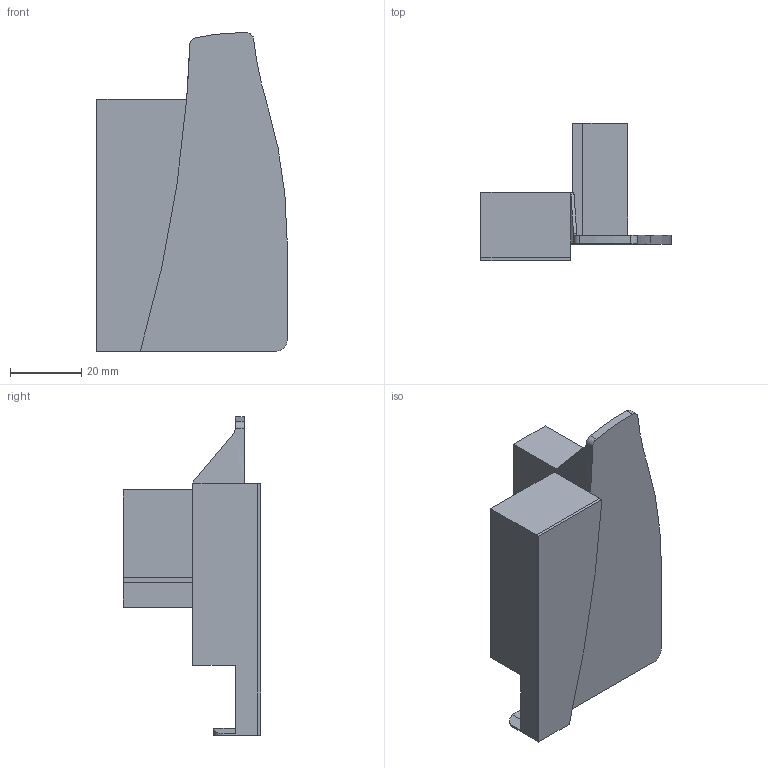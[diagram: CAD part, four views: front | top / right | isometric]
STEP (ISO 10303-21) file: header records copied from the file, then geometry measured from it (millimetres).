
FILE_DESCRIPTION (( 'STEP AP214' ), '1' );
FILE_NAME ('Blendenhalter AL 6800 Rechts.step', '2010-09-16T12:23:06', ( 'grass' ), ( '' ), 'SwSTEP 2.0', 'SolidWorks 2010', '' );
FILE_SCHEMA (( 'AUTOMOTIVE_DESIGN' ));
Length unit declared in the file: millimetre
Products named in the file (1): Blendenhalter AL 6800 Rechts
Bounding box: 53.5 x 38.6 x 89.56 mm (x, y, z)
Volume: 42385.5 mm3; surface area: 14969.6 mm2
Topology: 1 solids, 1 shells, 70 faces, 190 edges, 125 vertices
Faces by surface type: plane 48, cylinder 17, bspline 5
Entity records: 2528 total; most frequent: CARTESIAN_POINT 751, ORIENTED_EDGE 380, DIRECTION 333, EDGE_CURVE 190, VECTOR 143, LINE 143, VERTEX_POINT 125, AXIS2_PLACEMENT_3D 95
